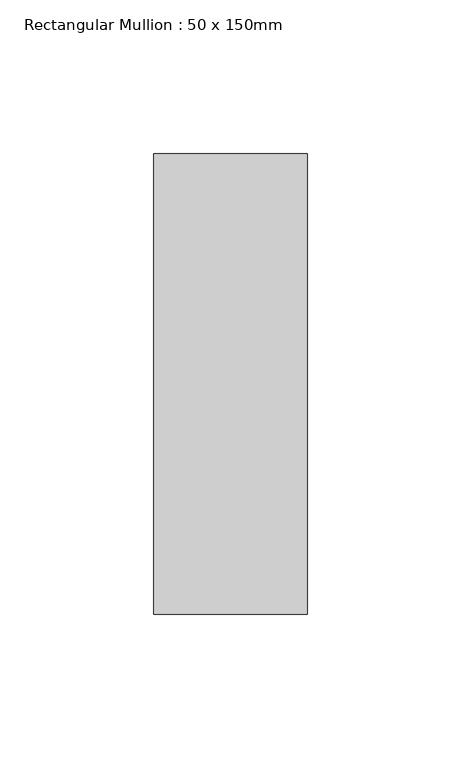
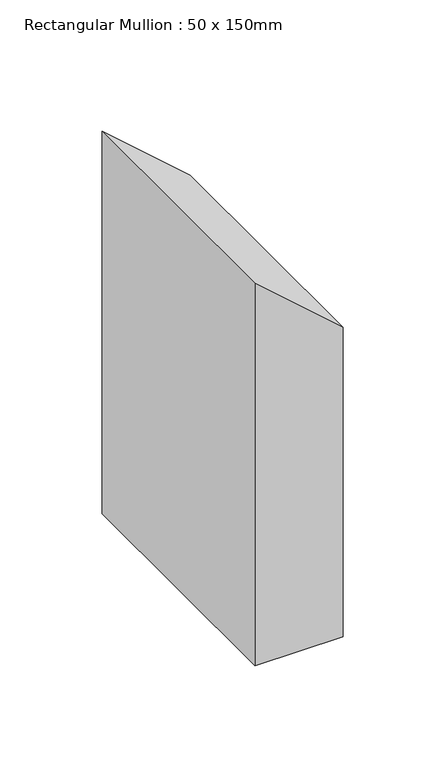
"""IFC4 building model written with IfcOpenShell, lengths in millimetres: member geometry, Rectangular Mullion : 50 x 150mm."""

from ifc_helpers import new_model, si_unit, frame, origin, place, context, project, spatial, polyline, outline, extrude, source, transform, mapped, element, save


def rectangular_mullion_50_x_150mm_5baa4231(model_context):
    return source(origin(), model_context, "Body", "SweptSolid", [
        extrude(outline(polyline([(-88.415239, 25.0), (-44.5773716, -25.0), (-273.5677213, -25.0), (-273.5677213, 25.0), (-88.415239, 25.0)])), frame((0.0, -75.0, 0.0), z_axis=(0.0, 1.0, 0.0), x_axis=(0.0, 0.0, 1.0)), (0.0, 0.0, 1.0), 150.0),
    ])


if __name__ == "__main__":
    model = new_model("IFC4")
    model_context = context("Model", 3, world=origin())
    ifc_project = project(units=[si_unit("LENGTHUNIT", "METRE", prefix="MILLI")], contexts=[model_context])
    site = spatial("IfcSite", under=ifc_project)
    building = spatial("IfcBuilding", under=site)
    placement = place(None, origin())
    rectangular_mullion_50_x_150mm_shape = rectangular_mullion_50_x_150mm_5baa4231(model_context)
    element("IfcMember", 1, ObjectType="Rectangular Mullion : 50 x 150mm", at=placement, inside=building, context=model_context, shape_type="MappedRepresentation", body=[
        mapped(rectangular_mullion_50_x_150mm_shape, transform((0.0, 0.0, 0.0), x_axis=(1.0, 0.0, 0.0), y_axis=(0.0, 1.0, 0.0), z_axis=(0.0, 0.0, 1.0))),
    ])
    save(model, "model.ifc")
